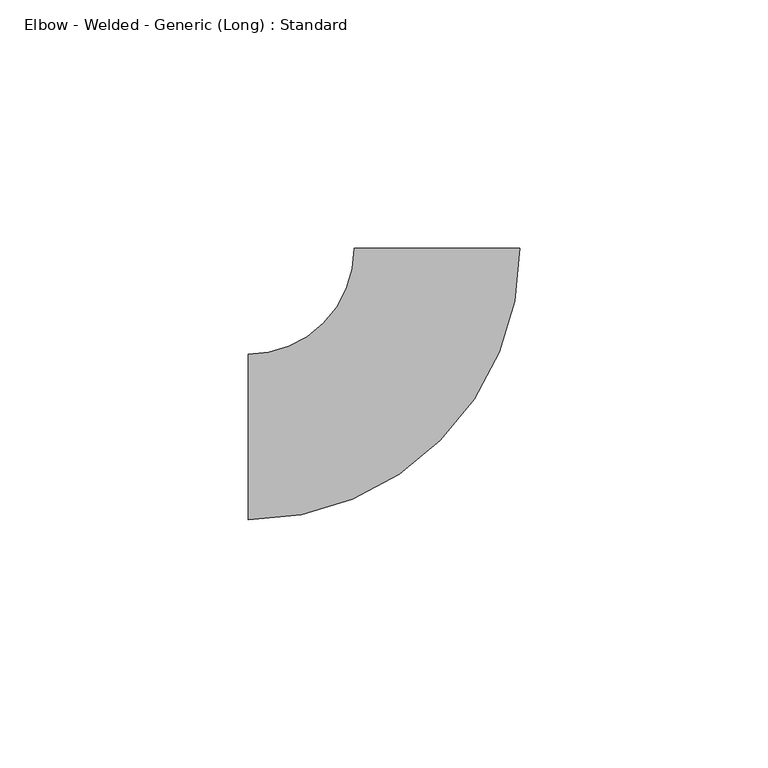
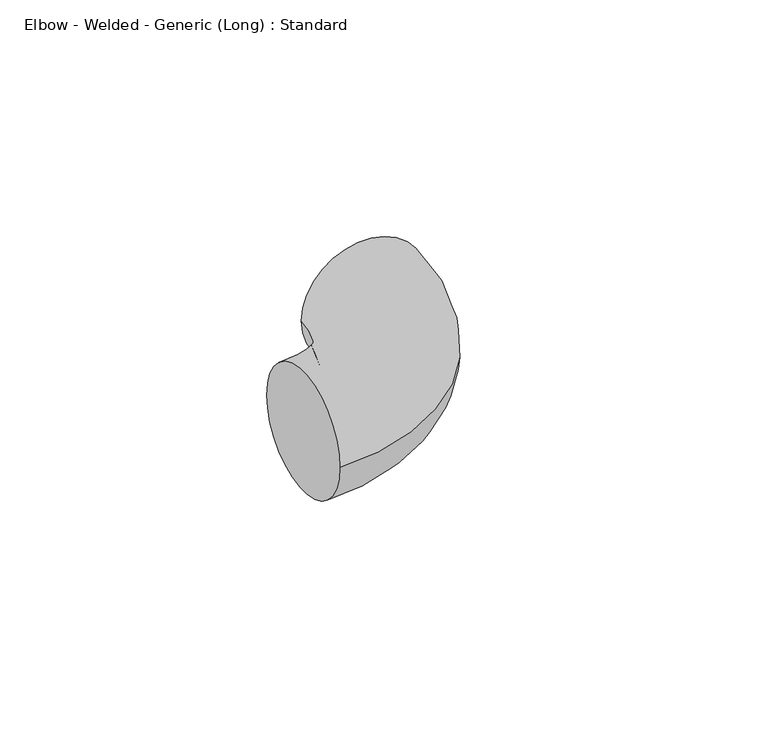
"""IFC4 building model written with IfcOpenShell, lengths in millimetres: pipe fitting geometry, Elbow - Welded - Generic (Long) : Standard."""

from ifc_helpers import new_model, si_unit, point, frame, origin, place, context, project, spatial, circle_curve, ellipse_curve, trimmed, source, transform, mapped, element, save
from ifc_brep_helpers import plane_surface, revolved_surface, advanced_brep


def elbow_welded_generic_long_standard_c539bb33(model_context):
    return source(origin(), model_context, "Body", "AdvancedBrep", [
        advanced_brep(
        [(-38.1, -16.66875, 0.0), (-38.1, 16.66875, 0.0), (16.6674235, 38.1005803, 0.0), (-16.6700765, 38.0994196, 0.0)],
        [
            (0, 1, circle_curve(frame((-38.1, 0.0, 0.0), z_axis=(-1.0, 0.0, 0.0), x_axis=(0.0, 1.0, 0.0)), 16.66875)),
            (1, 0, circle_curve(frame((-38.1, 0.0, 0.0), z_axis=(-1.0, 0.0, 0.0), x_axis=(0.0, 1.0, 0.0)), 16.66875)),
            (2, 3, circle_curve(frame((-0.0013265, 38.1, 0.0), z_axis=(-3.481638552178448e-05, 0.9999999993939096, 0.0), x_axis=(-0.9999999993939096, -3.481638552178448e-05, 0.0)), 16.66875)),
            (3, 2, circle_curve(frame((-0.0013265, 38.1, 0.0), z_axis=(-3.481638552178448e-05, 0.9999999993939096, 0.0), x_axis=(-0.9999999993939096, -3.481638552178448e-05, 0.0)), 16.66875)),
            (3, 1, circle_curve(frame((-38.1, 38.0986735, 0.0), z_axis=(0.0, 0.0, -1.0), x_axis=(0.0, -1.0, 0.0)), 21.4299235)),
            (0, 2, circle_curve(frame((-38.1, 38.0986735, 0.0), z_axis=(0.0, 0.0, 1.0), x_axis=(0.0, -1.0, 0.0)), 54.7674235)),
        ],
        [
            plane_surface(frame((-38.1, 0.0, 0.0), z_axis=(-1.0, 0.0, 0.0), x_axis=(0.0, 0.0, 1.0))),
            plane_surface(frame((-0.0013265, 38.1, 0.0), z_axis=(-3.481638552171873e-05, 0.9999999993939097, 0.0), x_axis=(0.0, 0.0, 1.0))),
            revolved_surface(trimmed(ellipse_curve(frame((-38.1, 0.0, 0.0), z_axis=(-1.0, 0.0, 0.0), x_axis=(0.0, 1.0, 0.0)), 16.66875, 16.66875), [point((-38.1, -16.66875, 0.0))], [point((-38.1, 16.66875, 0.0))], True, "CARTESIAN"), (-38.1, 38.0986735, 0.0), (0.0, 0.0, 1.0)),
            revolved_surface(trimmed(ellipse_curve(frame((-38.1, 0.0, 0.0), z_axis=(-1.0, 0.0, 0.0), x_axis=(0.0, 1.0, 0.0)), 16.66875, 16.66875), [point((-38.1, 16.66875, 0.0))], [point((-38.1, -16.66875, 0.0))], True, "CARTESIAN"), (-38.1, 38.0986735, 0.0), (0.0, 0.0, 1.0)),
        ],
        [
            (0, [[1, 2]]),
            (1, [[3, 4]]),
            (2, [[5, -1, 6, -4]]),
            (3, [[-6, -2, -5, -3]]),
        ],
    ),
    ])


if __name__ == "__main__":
    model = new_model("IFC4")
    model_context = context("Model", 3, world=origin())
    ifc_project = project(units=[si_unit("LENGTHUNIT", "METRE", prefix="MILLI")], contexts=[model_context])
    site = spatial("IfcSite", under=ifc_project)
    building = spatial("IfcBuilding", under=site)
    placement = place(None, origin())
    elbow_welded_generic_long_standard_shape = elbow_welded_generic_long_standard_c539bb33(model_context)
    element("IfcPipeFitting", 1, ObjectType="Elbow - Welded - Generic (Long) : Standard", at=placement, inside=building, context=model_context, shape_type="MappedRepresentation", body=[
        mapped(elbow_welded_generic_long_standard_shape, transform((0.0, 0.0, 0.0), x_axis=(1.0, 0.0, 0.0), y_axis=(0.0, 1.0, 0.0), z_axis=(0.0, 0.0, 1.0))),
    ])
    save(model, "model.ifc")
